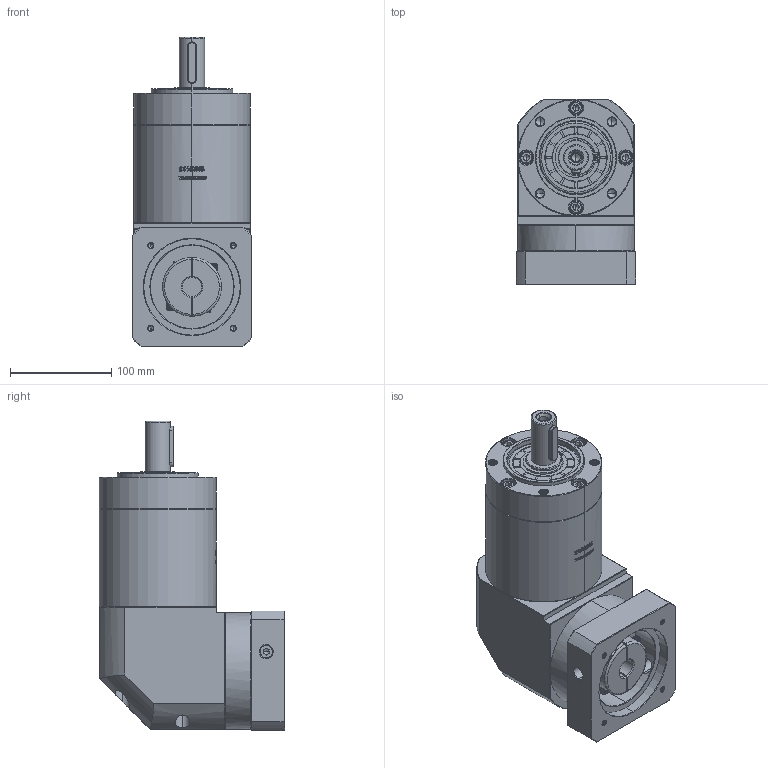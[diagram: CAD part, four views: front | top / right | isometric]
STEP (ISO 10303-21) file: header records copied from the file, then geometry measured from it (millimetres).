
FILE_DESCRIPTION (( 'STEP AP214' ), '1' );
FILE_NAME ('ZER120A-D25-L3-19-95-115-M6.step', '2023-03-14T08:17:54', ( '' ), ( '' ), 'SwSTEP 2.0', 'SolidWorks 2016', '' );
FILE_SCHEMA (( 'AUTOMOTIVE_DESIGN' ));
Length unit declared in the file: millimetre
Products named in the file (1): ZER120A-D25-L3-19-95-115-M6
Bounding box: 118 x 182.4 x 305 mm (x, y, z)
Volume: 3332152.9 mm3; surface area: 251370.9 mm2
Topology: 6 solids, 6 shells, 2942 faces, 7895 edges, 5096 vertices
Faces by surface type: plane 1462, bspline 622, cylinder 517, cone 333, torus 8
Entity records: 169650 total; most frequent: CARTESIAN_POINT 70283, ORIENTED_EDGE 15714, DIRECTION 11215, EDGE_CURVE 7857, VERTEX_POINT 5096, VECTOR 4783, LINE 4783, AXIS2_PLACEMENT_3D 3216
